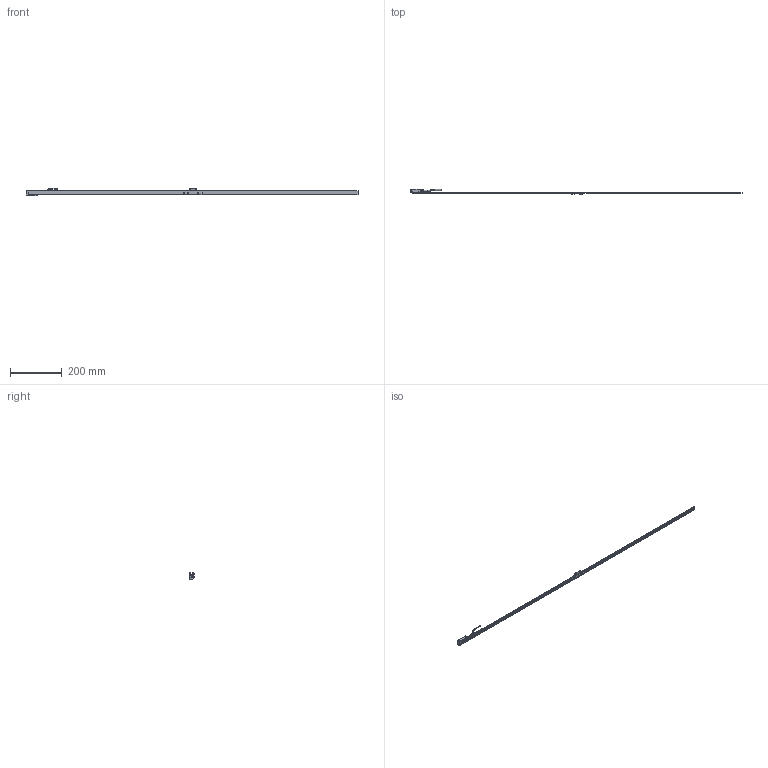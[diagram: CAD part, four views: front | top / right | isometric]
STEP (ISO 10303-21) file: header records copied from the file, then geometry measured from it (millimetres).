
FILE_DESCRIPTION(('Creo Elements/Direct Modeling STEP Export'),'2;1');
FILE_NAME('EXG_EXGA-1240.stp','2017-01-13T14:14:24',(''),(''),'Creo Elements/Direct Modeling STEP processor for AP214 (Solid Model)','Creo Elements/Direct Modeling 18.1H 24-Oct-2015 (C) Parametric Technology GmbH','');
FILE_SCHEMA(('AUTOMOTIVE_DESIGN { 1 0 10303 214 1 1 1 1 }'));
Length unit declared in the file: millimetre
Products named in the file (4): CABEZA_REGLA_EXPOSED; Regla_64
Assembly tree (2 placements, depth 2):
  CABEZA_REGLA_EXPOSED
    CABEZA_REGLA_EXPOSED
  Regla_64
    Regla_64
Bounding box: 1278 x 19.51 x 29.33 mm (x, y, z)
Volume: 54918 mm3; surface area: 85338.2 mm2
Topology: 2 solids, 4 shells, 508 faces, 1339 edges, 854 vertices
Faces by surface type: plane 255, cylinder 149, cone 88, torus 16
Entity records: 16964 total; most frequent: CARTESIAN_POINT 2901, ORIENTED_EDGE 2654, DIRECTION 2465, EDGE_CURVE 1327, VERTEX_POINT 854, AXIS2_PLACEMENT_3D 847, VECTOR 771, LINE 771
